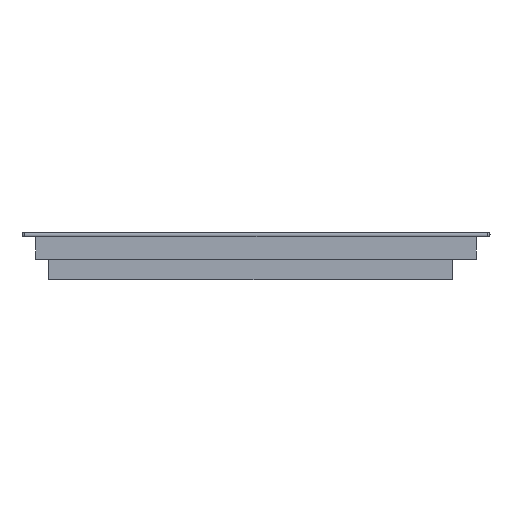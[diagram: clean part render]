
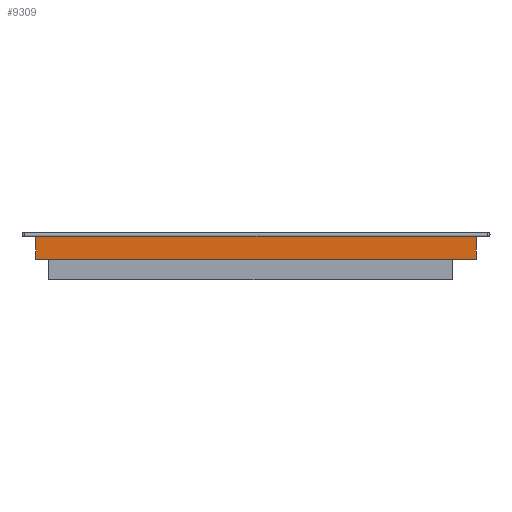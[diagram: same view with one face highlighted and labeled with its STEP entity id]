
A CAD part, left-side view. The second image highlights one B-rep face of the part: STEP entity #9309.
In plain terms, the highlighted planar face has unit normal (-1, 0, 0).
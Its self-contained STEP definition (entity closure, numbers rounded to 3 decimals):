
#9202=CARTESIAN_POINT('Vertex',(-435.,240.,-4.)) ;
#9205=CARTESIAN_POINT('Line Origine',(-435.,0.,-4.)) ;
#9209=CARTESIAN_POINT('Vertex',(-435.,-240.,-4.)) ;
#9271=CARTESIAN_POINT('Vertex',(-435.,-240.,-28.7)) ;
#9274=CARTESIAN_POINT('Line Origine',(-435.,-240.,-16.35)) ;
#9286=CARTESIAN_POINT('Axis2P3D Location',(-435.,-240.,0.)) ;
#9291=CARTESIAN_POINT('Line Origine',(-435.,0.,-28.7)) ;
#9295=CARTESIAN_POINT('Vertex',(-435.,240.,-28.7)) ;
#9298=CARTESIAN_POINT('Line Origine',(-435.,240.,-16.35)) ;
#9206=DIRECTION('Vector Direction',(0.,1.,0.)) ;
#9275=DIRECTION('Vector Direction',(0.,0.,-1.)) ;
#9287=DIRECTION('Axis2P3D Direction',(-1.,0.,0.)) ;
#9288=DIRECTION('Axis2P3D XDirection',(0.,1.,0.)) ;
#9292=DIRECTION('Vector Direction',(0.,1.,0.)) ;
#9299=DIRECTION('Vector Direction',(0.,0.,-1.)) ;
#9289=AXIS2_PLACEMENT_3D('Plane Axis2P3D',#9286,#9287,#9288) ;
#9304=ORIENTED_EDGE('',*,*,#9297,.T.) ;
#9305=ORIENTED_EDGE('',*,*,#9278,.F.) ;
#9306=ORIENTED_EDGE('',*,*,#9211,.F.) ;
#9307=ORIENTED_EDGE('',*,*,#9302,.T.) ;
#9207=VECTOR('Line Direction',#9206,1.) ;
#9276=VECTOR('Line Direction',#9275,1.) ;
#9293=VECTOR('Line Direction',#9292,1.) ;
#9300=VECTOR('Line Direction',#9299,1.) ;
#9309=ADVANCED_FACE('PartBody',(#9308),#9290,.T.) ;
#9211=EDGE_CURVE('',#9203,#9210,#9208,.F.) ;
#9278=EDGE_CURVE('',#9210,#9272,#9277,.T.) ;
#9297=EDGE_CURVE('',#9296,#9272,#9294,.F.) ;
#9302=EDGE_CURVE('',#9203,#9296,#9301,.T.) ;
#9303=EDGE_LOOP('',(#9304,#9305,#9306,#9307)) ;
#9308=FACE_OUTER_BOUND('',#9303,.T.) ;
#9208=LINE('Line',#9205,#9207) ;
#9277=LINE('Line',#9274,#9276) ;
#9294=LINE('Line',#9291,#9293) ;
#9301=LINE('Line',#9298,#9300) ;
#9290=PLANE('',#9289) ;
#9203=VERTEX_POINT('',#9202) ;
#9210=VERTEX_POINT('',#9209) ;
#9272=VERTEX_POINT('',#9271) ;
#9296=VERTEX_POINT('',#9295) ;
